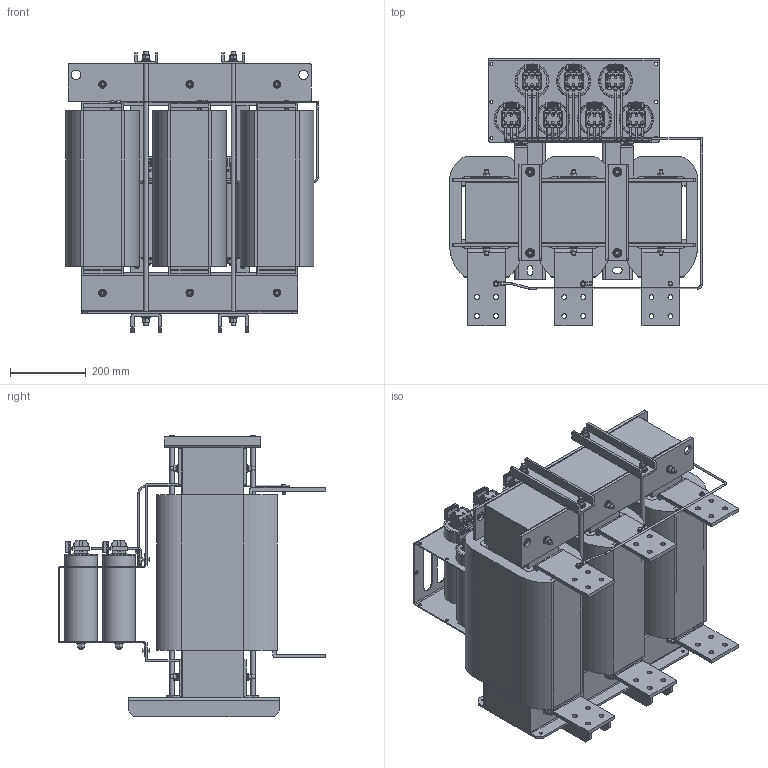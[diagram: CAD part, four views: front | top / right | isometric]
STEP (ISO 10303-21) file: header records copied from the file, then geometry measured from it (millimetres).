
FILE_DESCRIPTION (( 'STEP AP203' ), '1' );
FILE_NAME ('蔓躅漤铋 耔眢耥 翳朦蝠 _ ISINOF-630_1209-4.STEP', '2026-07-21T08:45:44', ( '' ), ( '' ), 'SwSTEP 2.0', 'SolidWorks 2021', '' );
FILE_SCHEMA (( 'CONFIG_CONTROL_DESIGN' ));
Products named in the file (1): 蔓躅漤铋 耔眢耥 翳朦蝠 _ ISINOF-630_1209-4
Bounding box: 665.9 x 705 x 742 mm (x, y, z)
Surface area: 8102442.7 mm2 (no closed solid volume)
Topology: 0 solids, 225 shells, 4057 faces, 10740 edges, 7120 vertices
Faces by surface type: plane 2668, cylinder 1135, cone 143, bspline 64, torus 47
Full cylindrical faces by diameter (mm): 5 x69, 5.053 x3, 6 x7, 6.3 x84, 6.45 x3, 6.5 x6, 7 x3, 7.47 x2, 8 x12, 8.422 x12, 9 x4, 9.55 x3, 10 x8, 10.106 x8, 10.75 x12, 10.833 x12, 12 x25, 12.9 x8, 13 x39, 15.917 x12, 19.1 x8, 20 x12, 24 x15, 25 x4, 78.861 x7, 86 x7, 89 x7, 90 x7
Entity records: 131899 total; most frequent: CARTESIAN_POINT 34289, ORIENTED_EDGE 20056, DIRECTION 18999, EDGE_CURVE 10042, VECTOR 6981, LINE 6981, VERTEX_POINT 6966, AXIS2_PLACEMENT_3D 6009
